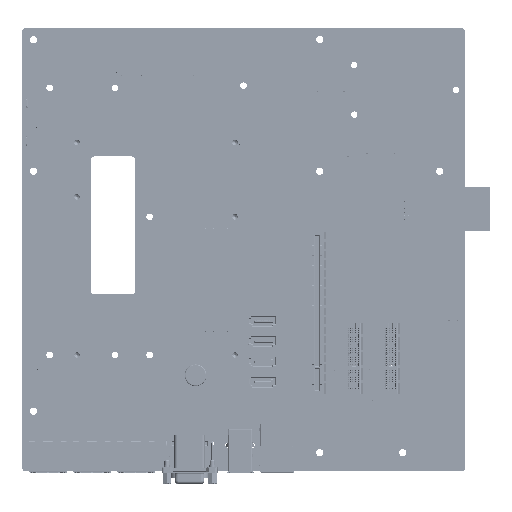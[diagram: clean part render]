
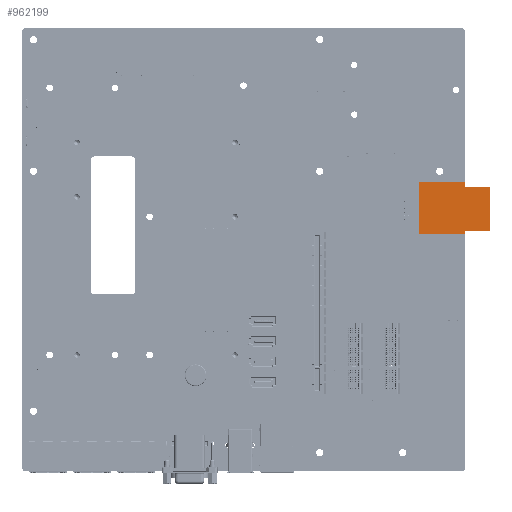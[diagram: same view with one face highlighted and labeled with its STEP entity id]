
A CAD part, top view. The second image highlights one B-rep face of the part: STEP entity #962199.
In plain terms, the highlighted planar face has unit normal (0, 0, 1).
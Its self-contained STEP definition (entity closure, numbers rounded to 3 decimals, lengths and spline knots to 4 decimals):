
#961984=DIRECTION('',(1.,0.,0.));
#961985=VECTOR('',#961984,0.0559);
#961986=CARTESIAN_POINT('',(-0.5315,-0.8858,0.1083));
#961987=LINE('',#961986,#961985);
#961988=DIRECTION('',(0.,-1.,0.));
#961989=VECTOR('',#961988,1.0039);
#961990=CARTESIAN_POINT('',(-0.5315,0.1181,0.1083));
#961991=LINE('',#961990,#961989);
#961992=DIRECTION('',(-1.,0.,0.));
#961993=VECTOR('',#961992,1.1181);
#961994=CARTESIAN_POINT('',(0.5866,0.1181,0.1083));
#961995=LINE('',#961994,#961993);
#961996=DIRECTION('',(0.,1.,0.));
#961997=VECTOR('',#961996,1.0039);
#961998=CARTESIAN_POINT('',(0.5866,-0.8858,0.1083));
#961999=LINE('',#961998,#961997);
#962000=DIRECTION('',(1.,0.,0.));
#962001=VECTOR('',#962000,0.111);
#962002=CARTESIAN_POINT('',(0.4756,-0.8858,0.1083));
#962003=LINE('',#962002,#962001);
#962004=DIRECTION('',(0.,1.,0.));
#962005=VECTOR('',#962004,0.5433);
#962006=CARTESIAN_POINT('',(0.4756,-1.4291,0.1083));
#962007=LINE('',#962006,#962005);
#962008=DIRECTION('',(1.,0.,0.));
#962009=VECTOR('',#962008,0.9512);
#962010=CARTESIAN_POINT('',(-0.4756,-1.4291,0.1083));
#962011=LINE('',#962010,#962009);
#962012=DIRECTION('',(0.,-1.,0.));
#962013=VECTOR('',#962012,0.5433);
#962014=CARTESIAN_POINT('',(-0.4756,-0.8858,0.1083));
#962015=LINE('',#962014,#962013);
#962032=CARTESIAN_POINT('',(-0.5315,-0.8858,0.1083));
#962033=CARTESIAN_POINT('',(-0.4756,-0.8858,0.1083));
#962034=VERTEX_POINT('',#962032);
#962035=VERTEX_POINT('',#962033);
#962036=CARTESIAN_POINT('',(-0.4756,-1.4291,0.1083));
#962037=VERTEX_POINT('',#962036);
#962038=CARTESIAN_POINT('',(0.4756,-1.4291,0.1083));
#962039=VERTEX_POINT('',#962038);
#962040=CARTESIAN_POINT('',(0.4756,-0.8858,0.1083));
#962041=VERTEX_POINT('',#962040);
#962042=CARTESIAN_POINT('',(0.5866,-0.8858,0.1083));
#962043=VERTEX_POINT('',#962042);
#962044=CARTESIAN_POINT('',(0.5866,0.1181,0.1083));
#962045=VERTEX_POINT('',#962044);
#962046=CARTESIAN_POINT('',(-0.5315,0.1181,0.1083));
#962047=VERTEX_POINT('',#962046);
#962184=CARTESIAN_POINT('',(0.,0.,0.1083));
#962185=DIRECTION('',(0.,0.,1.));
#962186=DIRECTION('',(1.,0.,0.));
#962187=AXIS2_PLACEMENT_3D('',#962184,#962185,#962186);
#962188=PLANE('',#962187);
#962189=ORIENTED_EDGE('',*,*,#962080,.F.);
#962190=ORIENTED_EDGE('',*,*,#962095,.F.);
#962191=ORIENTED_EDGE('',*,*,#962109,.F.);
#962192=ORIENTED_EDGE('',*,*,#962123,.F.);
#962193=ORIENTED_EDGE('',*,*,#962137,.F.);
#962194=ORIENTED_EDGE('',*,*,#962151,.F.);
#962195=ORIENTED_EDGE('',*,*,#962165,.F.);
#962196=ORIENTED_EDGE('',*,*,#962178,.F.);
#962197=EDGE_LOOP('',(#962189,#962190,#962191,#962192,#962193,#962194,#962195,
#962196));
#962198=FACE_OUTER_BOUND('',#962197,.F.);
#962199=ADVANCED_FACE('',(#962198),#962188,.T.);
#962080=EDGE_CURVE('',#962034,#962035,#961987,.T.);
#962095=EDGE_CURVE('',#962047,#962034,#961991,.T.);
#962109=EDGE_CURVE('',#962045,#962047,#961995,.T.);
#962123=EDGE_CURVE('',#962043,#962045,#961999,.T.);
#962137=EDGE_CURVE('',#962041,#962043,#962003,.T.);
#962151=EDGE_CURVE('',#962039,#962041,#962007,.T.);
#962165=EDGE_CURVE('',#962037,#962039,#962011,.T.);
#962178=EDGE_CURVE('',#962035,#962037,#962015,.T.);
